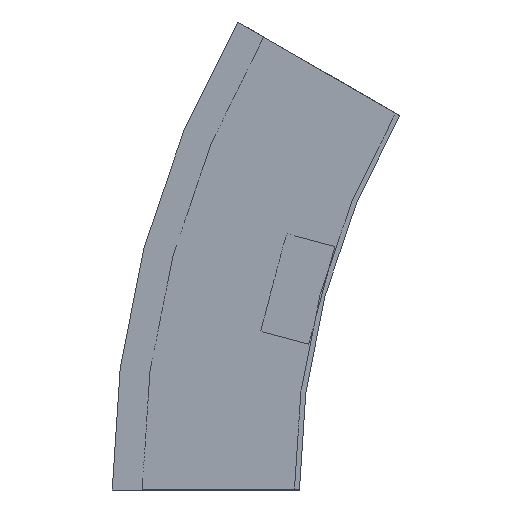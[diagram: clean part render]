
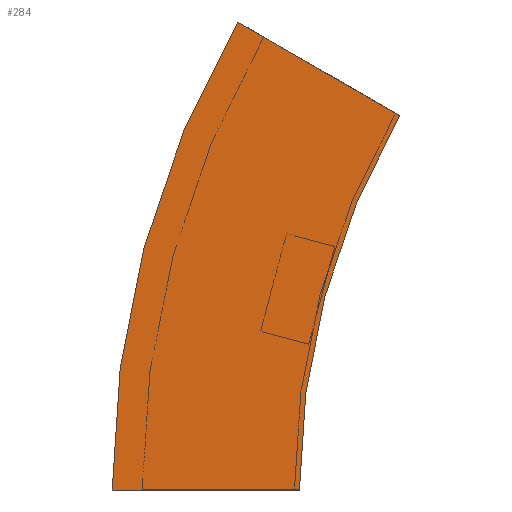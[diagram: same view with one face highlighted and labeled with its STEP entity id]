
A CAD part, left-side view. The second image highlights one B-rep face of the part: STEP entity #284.
In plain terms, the highlighted planar face has unit normal (-1, 0, 0) as drawn and (1, 0, 0) by its records, which use the part's own axes.
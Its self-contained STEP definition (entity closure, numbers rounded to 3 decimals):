
#17 = VECTOR ( 'NONE', #49, 1000. ) ;
#27 = DIRECTION ( 'NONE',  ( 1., 0., 0. ) ) ;
#49 = DIRECTION ( 'NONE',  ( 0., 1., 0. ) ) ;
#65 = VERTEX_POINT ( 'NONE', #118 ) ;
#84 = CIRCLE ( 'NONE', #433, 300. ) ;
#88 = AXIS2_PLACEMENT_3D ( 'NONE', #549, #27, #112 ) ;
#104 = ORIENTED_EDGE ( 'NONE', *, *, #564, .F. ) ;
#110 = DIRECTION ( 'NONE',  ( 0., 0., -1. ) ) ;
#112 = DIRECTION ( 'NONE',  ( 0., 1., 0. ) ) ;
#118 = CARTESIAN_POINT ( 'NONE',  ( 0., 0., 0. ) ) ;
#150 = CARTESIAN_POINT ( 'NONE',  ( 0., 0., 0. ) ) ;
#164 = CARTESIAN_POINT ( 'NONE',  ( 0., -300., 0. ) ) ;
#181 = AXIS2_PLACEMENT_3D ( 'NONE', #558, #337, #110 ) ;
#191 = EDGE_CURVE ( 'NONE', #488, #336, #440, .T. ) ;
#197 = VERTEX_POINT ( 'NONE', #265 ) ;
#204 = CARTESIAN_POINT ( 'NONE',  ( 0., 24.76, 187.5 ) ) ;
#224 = CARTESIAN_POINT ( 'NONE',  ( 0., -40.192, 150. ) ) ;
#238 = PLANE ( 'NONE',  #181 ) ;
#246 = EDGE_LOOP ( 'NONE', ( #461, #406, #104, #334 ) ) ;
#256 = DIRECTION ( 'NONE',  ( 1., 0., 0. ) ) ;
#265 = CARTESIAN_POINT ( 'NONE',  ( 0., 75., 0. ) ) ;
#284 = ADVANCED_FACE ( 'NONE', ( #294 ), #238, .T. ) ;
#293 = CIRCLE ( 'NONE', #88, 375. ) ;
#294 = FACE_OUTER_BOUND ( 'NONE', #246, .T. ) ;
#334 = ORIENTED_EDGE ( 'NONE', *, *, #387, .T. ) ;
#336 = VERTEX_POINT ( 'NONE', #204 ) ;
#337 = DIRECTION ( 'NONE',  ( 1., 0., 0. ) ) ;
#354 = CARTESIAN_POINT ( 'NONE',  ( 0., -40.192, 150. ) ) ;
#387 = EDGE_CURVE ( 'NONE', #65, #197, #448, .T. ) ;
#406 = ORIENTED_EDGE ( 'NONE', *, *, #191, .F. ) ;
#428 = DIRECTION ( 'NONE',  ( 0., 1., 0. ) ) ;
#433 = AXIS2_PLACEMENT_3D ( 'NONE', #164, #256, #428 ) ;
#440 = LINE ( 'NONE', #224, #455 ) ;
#448 = LINE ( 'NONE', #150, #17 ) ;
#455 = VECTOR ( 'NONE', #473, 1000. ) ;
#461 = ORIENTED_EDGE ( 'NONE', *, *, #544, .T. ) ;
#473 = DIRECTION ( 'NONE',  ( 0., 0.866, 0.5 ) ) ;
#488 = VERTEX_POINT ( 'NONE', #354 ) ;
#544 = EDGE_CURVE ( 'NONE', #197, #336, #293, .T. ) ;
#549 = CARTESIAN_POINT ( 'NONE',  ( 0., -300., 0. ) ) ;
#558 = CARTESIAN_POINT ( 'NONE',  ( 0., 0., 0. ) ) ;
#564 = EDGE_CURVE ( 'NONE', #65, #488, #84, .T. ) ;
